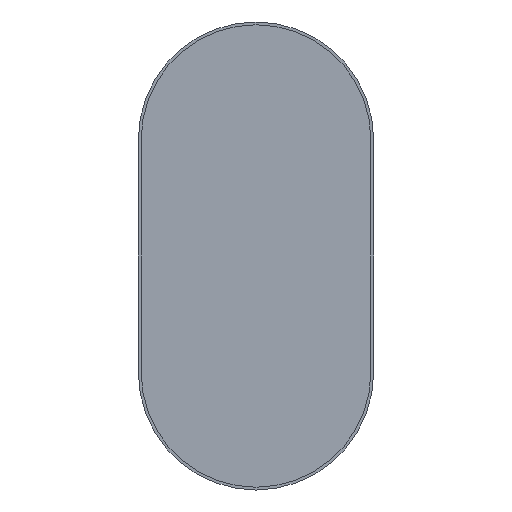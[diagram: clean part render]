
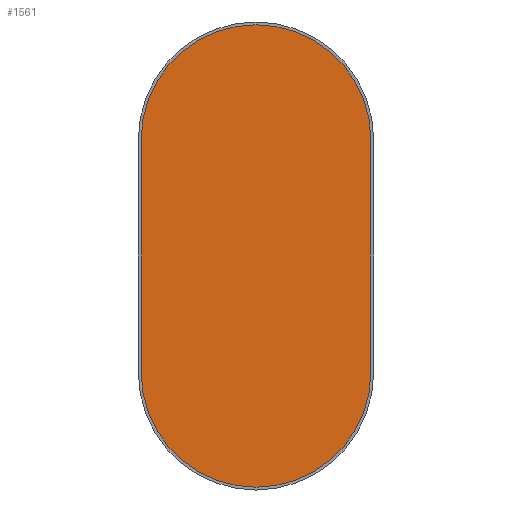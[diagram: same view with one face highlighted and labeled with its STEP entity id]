
A CAD part, front view. The second image highlights one B-rep face of the part: STEP entity #1561.
In plain terms, the highlighted planar face has unit normal (0, -1, 0).
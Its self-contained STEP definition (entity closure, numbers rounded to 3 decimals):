
#86=CIRCLE('',#1699,249.);
#87=CIRCLE('',#1700,249.);
#228=ORIENTED_EDGE('',*,*,#632,.T.);
#229=ORIENTED_EDGE('',*,*,#633,.T.);
#230=ORIENTED_EDGE('',*,*,#634,.T.);
#231=ORIENTED_EDGE('',*,*,#635,.T.);
#632=EDGE_CURVE('',#840,#841,#86,.F.);
#633=EDGE_CURVE('',#841,#842,#988,.T.);
#634=EDGE_CURVE('',#842,#843,#87,.F.);
#635=EDGE_CURVE('',#843,#840,#989,.T.);
#840=VERTEX_POINT('',#2381);
#841=VERTEX_POINT('',#2382);
#842=VERTEX_POINT('',#2384);
#843=VERTEX_POINT('',#2386);
#988=LINE('',#2383,#1146);
#989=LINE('',#2387,#1147);
#1146=VECTOR('',#1925,1000.);
#1147=VECTOR('',#1928,1000.);
#1295=EDGE_LOOP('',(#228,#229,#230,#231));
#1405=FACE_BOUND('',#1295,.T.);
#1504=PLANE('',#1698);
#1561=ADVANCED_FACE('',(#1405),#1504,.F.);
#1698=AXIS2_PLACEMENT_3D('',#2379,#1921,#1922);
#1699=AXIS2_PLACEMENT_3D('',#2380,#1923,#1924);
#1700=AXIS2_PLACEMENT_3D('',#2385,#1926,#1927);
#1921=DIRECTION('',(0.,1.,0.));
#1922=DIRECTION('',(0.,0.,1.));
#1923=DIRECTION('',(0.,1.,0.));
#1924=DIRECTION('',(0.,0.,1.));
#1925=DIRECTION('',(0.,0.,-1.));
#1926=DIRECTION('',(0.,1.,0.));
#1927=DIRECTION('',(0.,0.,1.));
#1928=DIRECTION('',(0.,0.,1.));
#2379=CARTESIAN_POINT('',(280.17,0.,763.003));
#2380=CARTESIAN_POINT('',(280.17,0.,763.003));
#2381=CARTESIAN_POINT('',(529.17,0.,763.003));
#2382=CARTESIAN_POINT('',(31.17,0.,763.003));
#2383=CARTESIAN_POINT('',(31.17,0.,763.003));
#2384=CARTESIAN_POINT('',(31.17,0.,263.003));
#2385=CARTESIAN_POINT('',(280.17,0.,263.003));
#2386=CARTESIAN_POINT('',(529.17,0.,263.003));
#2387=CARTESIAN_POINT('',(529.17,0.,763.003));
